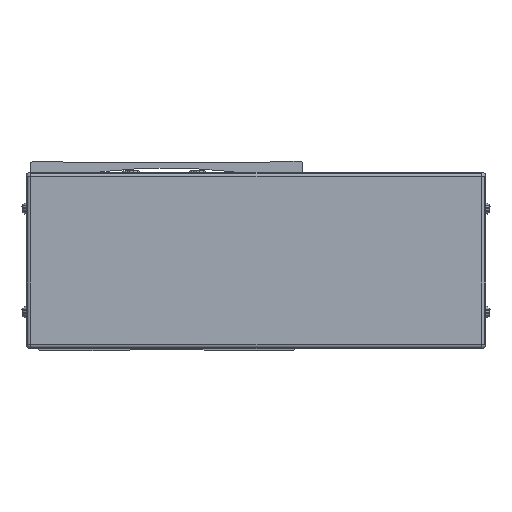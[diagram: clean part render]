
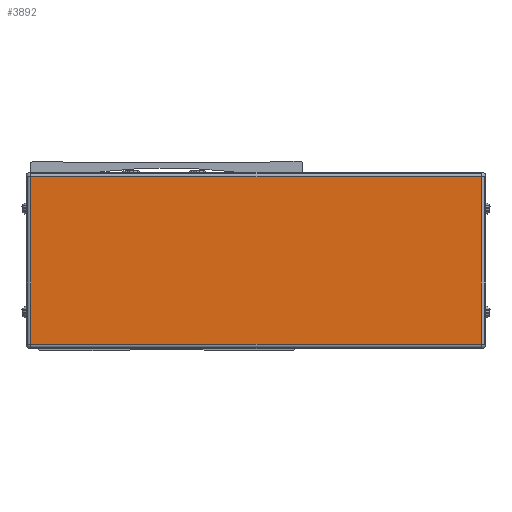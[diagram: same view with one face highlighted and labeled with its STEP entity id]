
A CAD part, front view. The second image highlights one B-rep face of the part: STEP entity #3892.
In plain terms, the highlighted planar face has unit normal (0, -1, 0).
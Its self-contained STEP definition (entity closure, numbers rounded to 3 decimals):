
#3892=ADVANCED_FACE('',(#8851),#8852,.T.);
#8851=FACE_OUTER_BOUND('',#15569,.T.);
#8852=PLANE('',#15570);
#15569=EDGE_LOOP('',(#28116,#28117,#28118,#28119));
#15570=AXIS2_PLACEMENT_3D('',#28120,#28121,#28122);
#28116=ORIENTED_EDGE('',*,*,#41310,.F.);
#28117=ORIENTED_EDGE('',*,*,#40147,.F.);
#28118=ORIENTED_EDGE('',*,*,#42134,.F.);
#28119=ORIENTED_EDGE('',*,*,#39422,.F.);
#28120=CARTESIAN_POINT('',(-259.5,-213.778,-8.));
#28121=DIRECTION('',(0.,-1.0,0.));
#28122=DIRECTION('',(1.0,0.,0.));
#39422=EDGE_CURVE('',#47812,#47814,#47815,.T.);
#40147=EDGE_CURVE('',#48573,#48972,#48973,.T.);
#41310=EDGE_CURVE('',#48972,#47812,#50736,.T.);
#42134=EDGE_CURVE('',#47814,#48573,#51903,.T.);
#47812=VERTEX_POINT('',#59539);
#47814=VERTEX_POINT('',#59541);
#47815=LINE('',#59542,#59543);
#48573=VERTEX_POINT('',#60608);
#48972=VERTEX_POINT('',#61231);
#48973=LINE('',#61232,#61233);
#50736=LINE('',#63826,#63827);
#51903=LINE('',#65543,#65544);
#59539=CARTESIAN_POINT('',(-157.3,-213.778,-46.));
#59541=CARTESIAN_POINT('',(-361.7,-213.778,-46.));
#59542=CARTESIAN_POINT('',(-259.5,-213.778,-46.));
#59543=VECTOR('',#72409,10.0);
#60608=CARTESIAN_POINT('',(-361.7,-213.778,30.));
#61231=CARTESIAN_POINT('',(-157.3,-213.778,30.));
#61232=CARTESIAN_POINT('',(-259.5,-213.778,30.));
#61233=VECTOR('',#73312,10.0);
#63826=CARTESIAN_POINT('',(-157.3,-213.778,-8.));
#63827=VECTOR('',#74851,10.0);
#65543=CARTESIAN_POINT('',(-361.7,-213.778,-8.));
#65544=VECTOR('',#75842,10.0);
#72409=DIRECTION('',(-1.0,0.,0.));
#73312=DIRECTION('',(1.0,0.,0.));
#74851=DIRECTION('',(0.0,0.,-1.0));
#75842=DIRECTION('',(0.0,0.,1.0));
